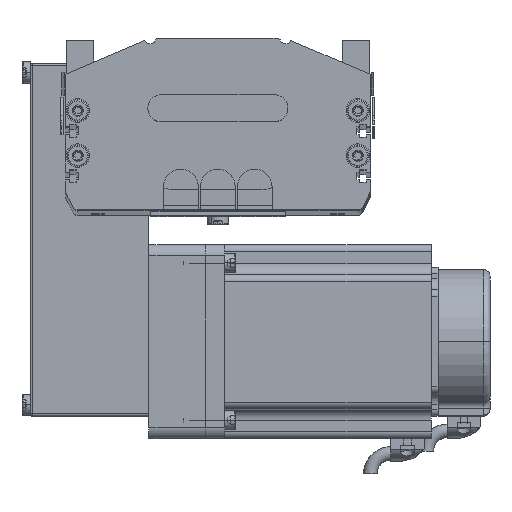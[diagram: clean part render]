
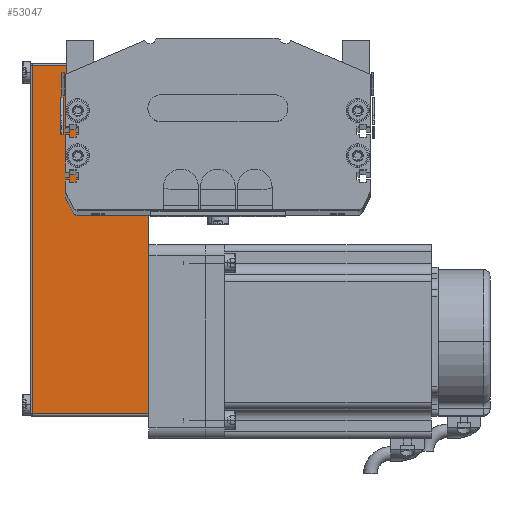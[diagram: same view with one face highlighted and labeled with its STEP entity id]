
A CAD part, top view. The second image highlights one B-rep face of the part: STEP entity #53047.
In plain terms, the highlighted planar face has unit normal (0, 0, 1) as drawn and (0, -1, 0) by its records, which use the part's own axes.
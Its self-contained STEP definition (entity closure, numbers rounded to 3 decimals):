
#17967 = CARTESIAN_POINT ( 'NONE',  ( 31., -40., 0. ) ) ;
#18209 = DIRECTION ( 'NONE',  ( 0., 0., 1. ) ) ;
#18210 = CARTESIAN_POINT ( 'NONE',  ( 31., -40., 52.5 ) ) ;
#18258 = CARTESIAN_POINT ( 'NONE',  ( -123.2, -40., 51.5 ) ) ;
#18259 = VECTOR ( 'NONE', #18277, 1000. ) ;
#18268 = LINE ( 'NONE', #18210, #18274 ) ;
#18269 = DIRECTION ( 'NONE',  ( 0., 0., -1. ) ) ;
#18270 = VECTOR ( 'NONE', #18269, 1000. ) ;
#18271 = CARTESIAN_POINT ( 'NONE',  ( -123.2, -40., 52.5 ) ) ;
#18272 = LINE ( 'NONE', #18271, #18270 ) ;
#18274 = VECTOR ( 'NONE', #18209, 1000. ) ;
#18277 = DIRECTION ( 'NONE',  ( -1., 0., 0. ) ) ;
#18310 = CARTESIAN_POINT ( 'NONE',  ( 32., -40., 51.5 ) ) ;
#18311 = LINE ( 'NONE', #18310, #18259 ) ;
#18359 = PLANE ( 'NONE',  #18517 ) ;
#18398 = CARTESIAN_POINT ( 'NONE',  ( 31., -40., 51.5 ) ) ;
#18420 = FACE_OUTER_BOUND ( 'NONE', #52907, .T. ) ;
#18486 = DIRECTION ( 'NONE',  ( -1., 0., 0. ) ) ;
#18487 = DIRECTION ( 'NONE',  ( 0., 1., 0. ) ) ;
#18488 = CARTESIAN_POINT ( 'NONE',  ( 32., -40., 52.5 ) ) ;
#18517 = AXIS2_PLACEMENT_3D ( 'NONE', #18488, #18487, #18486 ) ;
#18827 = LINE ( 'NONE', #18942, #18936 ) ;
#18900 = CARTESIAN_POINT ( 'NONE',  ( -123.2, -40., 0. ) ) ;
#18936 = VECTOR ( 'NONE', #18941, 1000. ) ;
#18941 = DIRECTION ( 'NONE',  ( 1., 0., 0. ) ) ;
#18942 = CARTESIAN_POINT ( 'NONE',  ( 32., -40., 0. ) ) ;
#52864 = VERTEX_POINT ( 'NONE', #17967 ) ;
#52906 = ORIENTED_EDGE ( 'NONE', *, *, #53306, .T. ) ;
#52907 = EDGE_LOOP ( 'NONE', ( #52906, #53050, #52942, #52984 ) ) ;
#52915 = EDGE_CURVE ( 'NONE', #53049, #52918, #18311, .T. ) ;
#52917 = EDGE_CURVE ( 'NONE', #52918, #53231, #18272, .T. ) ;
#52918 = VERTEX_POINT ( 'NONE', #18258 ) ;
#52922 = EDGE_CURVE ( 'NONE', #52864, #53049, #18268, .T. ) ;
#52942 = ORIENTED_EDGE ( 'NONE', *, *, #52915, .T. ) ;
#52984 = ORIENTED_EDGE ( 'NONE', *, *, #52917, .T. ) ;
#53047 = ADVANCED_FACE ( 'NONE', ( #18420 ), #18359, .F. ) ;
#53049 = VERTEX_POINT ( 'NONE', #18398 ) ;
#53050 = ORIENTED_EDGE ( 'NONE', *, *, #52922, .T. ) ;
#53231 = VERTEX_POINT ( 'NONE', #18900 ) ;
#53306 = EDGE_CURVE ( 'NONE', #53231, #52864, #18827, .T. ) ;
